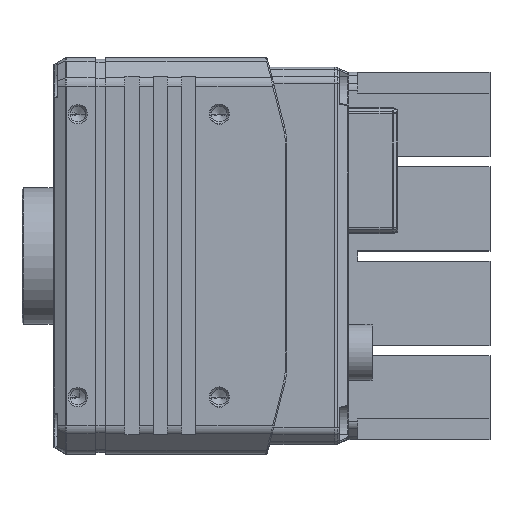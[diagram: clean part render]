
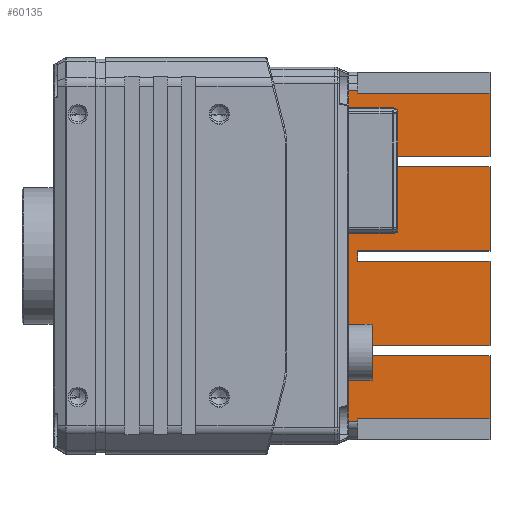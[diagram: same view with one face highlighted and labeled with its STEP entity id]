
A CAD part, top view. The second image highlights one B-rep face of the part: STEP entity #60135.
In plain terms, the highlighted planar face has unit normal (0, 0, 1).
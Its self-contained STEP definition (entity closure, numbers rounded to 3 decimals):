
#7493=DIRECTION('',(0.,1.,0.));
#7494=VECTOR('',#7493,70.222);
#7495=CARTESIAN_POINT('',(62.5,-35.111,4.319));
#7496=LINE('',#7495,#7494);
#10055=DIRECTION('',(1.,0.,0.));
#10056=VECTOR('',#10055,2.);
#10057=CARTESIAN_POINT('',(62.5,-35.111,4.319));
#10058=LINE('',#10057,#10056);
#10059=DIRECTION('',(0.,-1.,0.));
#10060=VECTOR('',#10059,0.611);
#10061=CARTESIAN_POINT('',(64.5,35.111,4.319));
#10062=LINE('',#10061,#10060);
#10063=DIRECTION('',(1.,0.,0.));
#10064=VECTOR('',#10063,28.);
#10065=CARTESIAN_POINT('',(64.5,34.5,4.319));
#10066=LINE('',#10065,#10064);
#10067=DIRECTION('',(0.,-1.,0.));
#10068=VECTOR('',#10067,2.2);
#10069=CARTESIAN_POINT('',(64.5,21.12,4.319));
#10070=LINE('',#10069,#10068);
#10071=DIRECTION('',(0.,-1.,0.));
#10072=VECTOR('',#10071,2.2);
#10073=CARTESIAN_POINT('',(64.5,1.1,4.319));
#10074=LINE('',#10073,#10072);
#10075=DIRECTION('',(0.,-1.,0.));
#10076=VECTOR('',#10075,2.2);
#10077=CARTESIAN_POINT('',(64.5,-18.92,4.319));
#10078=LINE('',#10077,#10076);
#10079=DIRECTION('',(0.,-1.,0.));
#10080=VECTOR('',#10079,0.611);
#10081=CARTESIAN_POINT('',(64.5,-34.5,4.319));
#10082=LINE('',#10081,#10080);
#10083=DIRECTION('',(-1.,0.,0.));
#10084=VECTOR('',#10083,2.);
#10085=CARTESIAN_POINT('',(64.5,35.111,4.319));
#10086=LINE('',#10085,#10084);
#12262=DIRECTION('',(0.,1.,0.));
#12263=VECTOR('',#12262,13.38);
#12264=CARTESIAN_POINT('',(92.5,21.12,4.319));
#12265=LINE('',#12264,#12263);
#12270=DIRECTION('',(1.,0.,0.));
#12271=VECTOR('',#12270,28.);
#12272=CARTESIAN_POINT('',(64.5,21.12,4.319));
#12273=LINE('',#12272,#12271);
#13191=DIRECTION('',(1.,0.,0.));
#13192=VECTOR('',#13191,28.);
#13193=CARTESIAN_POINT('',(64.5,-34.5,4.319));
#13194=LINE('',#13193,#13192);
#13207=DIRECTION('',(0.,1.,0.));
#13208=VECTOR('',#13207,13.38);
#13209=CARTESIAN_POINT('',(92.5,-34.5,4.319));
#13210=LINE('',#13209,#13208);
#13227=DIRECTION('',(-1.,0.,0.));
#13228=VECTOR('',#13227,28.);
#13229=CARTESIAN_POINT('',(92.5,-21.12,4.319));
#13230=LINE('',#13229,#13228);
#13239=DIRECTION('',(1.,0.,0.));
#13240=VECTOR('',#13239,28.);
#13241=CARTESIAN_POINT('',(64.5,-18.92,4.319));
#13242=LINE('',#13241,#13240);
#13251=DIRECTION('',(0.,1.,0.));
#13252=VECTOR('',#13251,17.82);
#13253=CARTESIAN_POINT('',(92.5,-18.92,4.319));
#13254=LINE('',#13253,#13252);
#13271=DIRECTION('',(-1.,0.,0.));
#13272=VECTOR('',#13271,28.);
#13273=CARTESIAN_POINT('',(92.5,-1.1,4.319));
#13274=LINE('',#13273,#13272);
#13283=DIRECTION('',(1.,0.,0.));
#13284=VECTOR('',#13283,28.);
#13285=CARTESIAN_POINT('',(64.5,1.1,4.319));
#13286=LINE('',#13285,#13284);
#13303=DIRECTION('',(0.,1.,0.));
#13304=VECTOR('',#13303,17.82);
#13305=CARTESIAN_POINT('',(92.5,1.1,4.319));
#13306=LINE('',#13305,#13304);
#13315=DIRECTION('',(-1.,0.,0.));
#13316=VECTOR('',#13315,28.);
#13317=CARTESIAN_POINT('',(92.5,18.92,4.319));
#13318=LINE('',#13317,#13316);
#41481=CARTESIAN_POINT('',(64.5,34.5,4.319));
#41482=VERTEX_POINT('',#41481);
#41483=CARTESIAN_POINT('',(64.5,35.111,4.319));
#41485=VERTEX_POINT('',#41483);
#41595=CARTESIAN_POINT('',(64.5,-35.111,4.319));
#41596=VERTEX_POINT('',#41595);
#41598=CARTESIAN_POINT('',(64.5,-34.5,4.319));
#41600=VERTEX_POINT('',#41598);
#41603=CARTESIAN_POINT('',(64.5,-18.92,4.319));
#41604=CARTESIAN_POINT('',(64.5,-21.12,4.319));
#41605=VERTEX_POINT('',#41603);
#41606=VERTEX_POINT('',#41604);
#41611=CARTESIAN_POINT('',(64.5,1.1,4.319));
#41612=CARTESIAN_POINT('',(64.5,-1.1,4.319));
#41613=VERTEX_POINT('',#41611);
#41614=VERTEX_POINT('',#41612);
#41619=CARTESIAN_POINT('',(64.5,21.12,4.319));
#41620=CARTESIAN_POINT('',(64.5,18.92,4.319));
#41621=VERTEX_POINT('',#41619);
#41622=VERTEX_POINT('',#41620);
#41699=CARTESIAN_POINT('',(92.5,34.5,4.319));
#41700=VERTEX_POINT('',#41699);
#41701=CARTESIAN_POINT('',(92.5,21.12,4.319));
#41702=VERTEX_POINT('',#41701);
#41703=CARTESIAN_POINT('',(92.5,1.1,4.319));
#41704=VERTEX_POINT('',#41703);
#41705=CARTESIAN_POINT('',(92.5,-18.92,4.319));
#41706=VERTEX_POINT('',#41705);
#41818=CARTESIAN_POINT('',(92.5,18.92,4.319));
#41819=VERTEX_POINT('',#41818);
#41824=CARTESIAN_POINT('',(92.5,-1.1,4.319));
#41825=VERTEX_POINT('',#41824);
#41830=CARTESIAN_POINT('',(92.5,-21.12,4.319));
#41831=VERTEX_POINT('',#41830);
#41834=CARTESIAN_POINT('',(92.5,-34.5,4.319));
#41835=VERTEX_POINT('',#41834);
#43618=CARTESIAN_POINT('',(62.5,-35.111,4.319));
#43619=CARTESIAN_POINT('',(62.5,35.111,4.319));
#43620=VERTEX_POINT('',#43618);
#43621=VERTEX_POINT('',#43619);
#60090=CARTESIAN_POINT('',(77.5,0.,4.319));
#60091=DIRECTION('',(0.,0.,1.));
#60092=DIRECTION('',(1.,0.,0.));
#60093=AXIS2_PLACEMENT_3D('',#60090,#60091,#60092);
#60094=PLANE('',#60093);
#60095=ORIENTED_EDGE('',*,*,#56174,.T.);
#60097=ORIENTED_EDGE('',*,*,#60096,.F.);
#60099=ORIENTED_EDGE('',*,*,#60098,.T.);
#60101=ORIENTED_EDGE('',*,*,#60100,.T.);
#60103=ORIENTED_EDGE('',*,*,#60102,.F.);
#60105=ORIENTED_EDGE('',*,*,#60104,.F.);
#60107=ORIENTED_EDGE('',*,*,#60106,.T.);
#60109=ORIENTED_EDGE('',*,*,#60108,.F.);
#60111=ORIENTED_EDGE('',*,*,#60110,.F.);
#60113=ORIENTED_EDGE('',*,*,#60112,.F.);
#60115=ORIENTED_EDGE('',*,*,#60114,.T.);
#60117=ORIENTED_EDGE('',*,*,#60116,.F.);
#60119=ORIENTED_EDGE('',*,*,#60118,.F.);
#60121=ORIENTED_EDGE('',*,*,#60120,.F.);
#60123=ORIENTED_EDGE('',*,*,#60122,.T.);
#60125=ORIENTED_EDGE('',*,*,#60124,.F.);
#60127=ORIENTED_EDGE('',*,*,#60126,.F.);
#60129=ORIENTED_EDGE('',*,*,#60128,.F.);
#60131=ORIENTED_EDGE('',*,*,#60130,.T.);
#60132=ORIENTED_EDGE('',*,*,#60082,.F.);
#60133=EDGE_LOOP('',(#60095,#60097,#60099,#60101,#60103,#60105,#60107,#60109,
#60111,#60113,#60115,#60117,#60119,#60121,#60123,#60125,#60127,#60129,#60131,
#60132));
#60134=FACE_OUTER_BOUND('',#60133,.F.);
#60135=ADVANCED_FACE('',(#60134),#60094,.T.);
#56174=EDGE_CURVE('',#43620,#43621,#7496,.T.);
#60082=EDGE_CURVE('',#43620,#41596,#10058,.T.);
#60096=EDGE_CURVE('',#41485,#43621,#10086,.T.);
#60098=EDGE_CURVE('',#41485,#41482,#10062,.T.);
#60100=EDGE_CURVE('',#41482,#41700,#10066,.T.);
#60102=EDGE_CURVE('',#41702,#41700,#12265,.T.);
#60104=EDGE_CURVE('',#41621,#41702,#12273,.T.);
#60106=EDGE_CURVE('',#41621,#41622,#10070,.T.);
#60108=EDGE_CURVE('',#41819,#41622,#13318,.T.);
#60110=EDGE_CURVE('',#41704,#41819,#13306,.T.);
#60112=EDGE_CURVE('',#41613,#41704,#13286,.T.);
#60114=EDGE_CURVE('',#41613,#41614,#10074,.T.);
#60116=EDGE_CURVE('',#41825,#41614,#13274,.T.);
#60118=EDGE_CURVE('',#41706,#41825,#13254,.T.);
#60120=EDGE_CURVE('',#41605,#41706,#13242,.T.);
#60122=EDGE_CURVE('',#41605,#41606,#10078,.T.);
#60124=EDGE_CURVE('',#41831,#41606,#13230,.T.);
#60126=EDGE_CURVE('',#41835,#41831,#13210,.T.);
#60128=EDGE_CURVE('',#41600,#41835,#13194,.T.);
#60130=EDGE_CURVE('',#41600,#41596,#10082,.T.);
